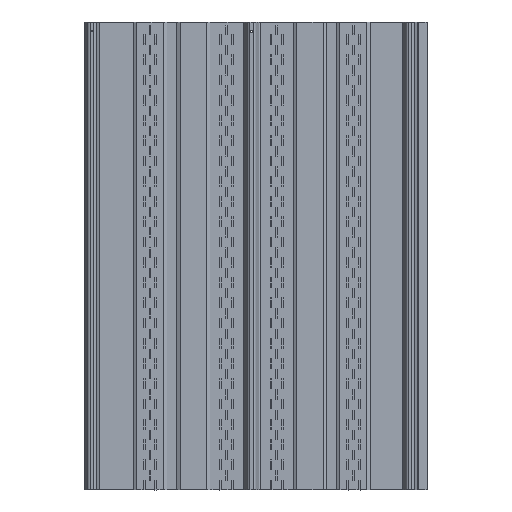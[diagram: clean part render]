
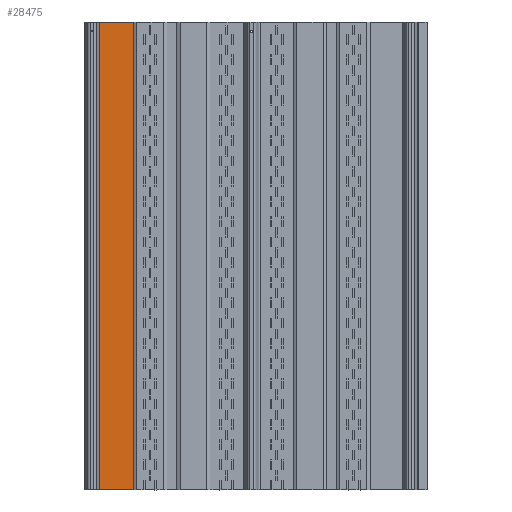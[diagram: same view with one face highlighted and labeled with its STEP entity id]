
A CAD part, front view. The second image highlights one B-rep face of the part: STEP entity #28475.
In plain terms, the highlighted planar face has unit normal (0, -1, 0).
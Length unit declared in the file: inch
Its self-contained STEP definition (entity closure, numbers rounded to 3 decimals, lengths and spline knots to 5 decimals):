
#1666 = DIRECTION ( 'NONE',  ( 0., 0., 1. ) ) ;
#2988 = CARTESIAN_POINT ( 'NONE',  ( -9.74912, -0.04036, 0. ) ) ;
#3917 = VECTOR ( 'NONE', #10792, 39.37008 ) ;
#10792 = DIRECTION ( 'NONE',  ( 1., 0., 0. ) ) ;
#13290 = CARTESIAN_POINT ( 'NONE',  ( -7.56111, -0.04036, -30. ) ) ;
#14176 = DIRECTION ( 'NONE',  ( 0., -1., 0. ) ) ;
#16061 = EDGE_CURVE ( 'NONE', #88291, #47604, #48009, .T. ) ;
#18620 = CARTESIAN_POINT ( 'NONE',  ( -9.74912, -0.04036, -30. ) ) ;
#20505 = DIRECTION ( 'NONE',  ( 0., 0., 1. ) ) ;
#20897 = ORIENTED_EDGE ( 'NONE', *, *, #16061, .F. ) ;
#22777 = VERTEX_POINT ( 'NONE', #13290 ) ;
#23737 = DIRECTION ( 'NONE',  ( 1., 0., 0. ) ) ;
#25258 = AXIS2_PLACEMENT_3D ( 'NONE', #91139, #14176, #68175 ) ;
#27447 = VECTOR ( 'NONE', #1666, 39.37008 ) ;
#28475 = ADVANCED_FACE ( 'NONE', ( #52280 ), #36832, .T. ) ;
#30859 = ORIENTED_EDGE ( 'NONE', *, *, #93040, .T. ) ;
#31015 = CARTESIAN_POINT ( 'NONE',  ( -7.56111, -0.04036, 0. ) ) ;
#33321 = ORIENTED_EDGE ( 'NONE', *, *, #92520, .T. ) ;
#36832 = PLANE ( 'NONE',  #25258 ) ;
#41412 = LINE ( 'NONE', #58937, #80061 ) ;
#44623 = EDGE_LOOP ( 'NONE', ( #87703, #20897, #33321, #30859 ) ) ;
#46359 = EDGE_CURVE ( 'NONE', #47604, #62802, #47490, .T. ) ;
#47338 = CARTESIAN_POINT ( 'NONE',  ( -9.74912, -0.04036, -30. ) ) ;
#47490 = LINE ( 'NONE', #2988, #3917 ) ;
#47604 = VERTEX_POINT ( 'NONE', #89292 ) ;
#48009 = LINE ( 'NONE', #47338, #27447 ) ;
#51164 = VECTOR ( 'NONE', #23737, 39.37008 ) ;
#52280 = FACE_OUTER_BOUND ( 'NONE', #44623, .T. ) ;
#53557 = LINE ( 'NONE', #62199, #51164 ) ;
#58937 = CARTESIAN_POINT ( 'NONE',  ( -7.56111, -0.04036, -30. ) ) ;
#62199 = CARTESIAN_POINT ( 'NONE',  ( -9.74912, -0.04036, -30. ) ) ;
#62802 = VERTEX_POINT ( 'NONE', #31015 ) ;
#68175 = DIRECTION ( 'NONE',  ( 1., 0., 0. ) ) ;
#80061 = VECTOR ( 'NONE', #20505, 39.37008 ) ;
#87703 = ORIENTED_EDGE ( 'NONE', *, *, #46359, .F. ) ;
#88291 = VERTEX_POINT ( 'NONE', #18620 ) ;
#89292 = CARTESIAN_POINT ( 'NONE',  ( -9.74912, -0.04036, 0. ) ) ;
#91139 = CARTESIAN_POINT ( 'NONE',  ( -9.74912, -0.04036, -30. ) ) ;
#92520 = EDGE_CURVE ( 'NONE', #88291, #22777, #53557, .T. ) ;
#93040 = EDGE_CURVE ( 'NONE', #22777, #62802, #41412, .T. ) ;
